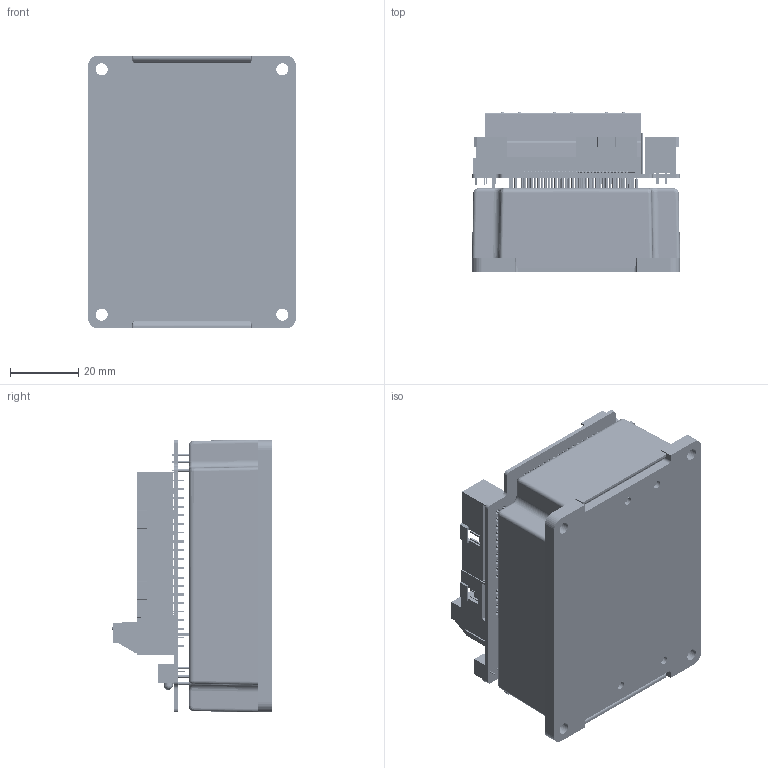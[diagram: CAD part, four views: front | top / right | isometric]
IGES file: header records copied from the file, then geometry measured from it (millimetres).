
Start section: SolidWorks IGES file using analytic representation for surfaces
Global section: file name: F:\ELMO\PRODUCTS\SOLO\DRAWING\SOLID-PARTS\solo-guitar\solo-guitar.IGS; native system: SolidWorks 2008; preprocessor: SolidWorks 2008; author: shlomo; date: 080813.122647; units: millimetre
Bounding box: 61 x 47 x 80.1 mm (x, y, z)
Surface area: 58331.7 mm2 (no closed solid volume)
Topology: 0 solids, 0 shells, 4723 faces, 37076 edges, 37062 vertices
Faces by surface type: bspline 3503, revolution 1220
